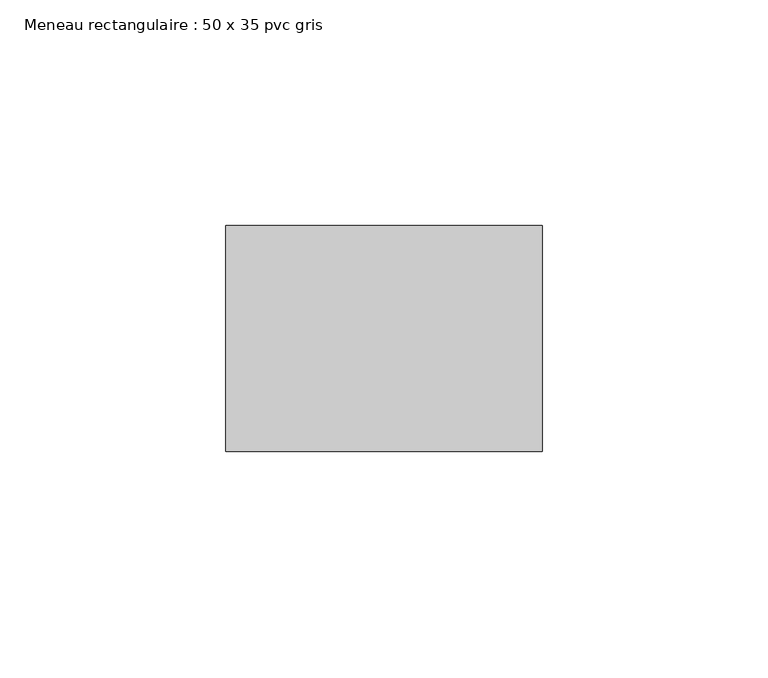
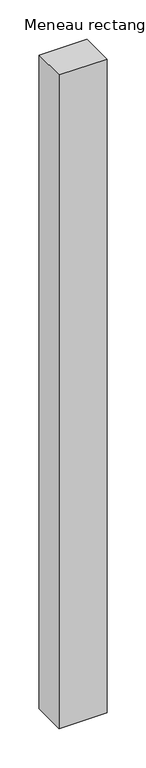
"""IFC4 building model written with IfcOpenShell, lengths in millimetres: member geometry, Meneau rectangulaire : 50 x 35 pvc gris."""

import ifcopenshell
import ifcopenshell.guid

model = None  # the IFC model being written
_history = None  # IfcOwnerHistory: only IFC2X3 demands one
_inside = {}  # id of a spatial element -> (the spatial element, [elements in it])
_under = {}  # id of a project, library or spatial element -> (it, [spatial elements below it])
_declared = {}  # id of a project -> (the project, [libraries it declares])
_typed = {}  # id of a type object -> (the type object, [elements of that type])
_made_of = {}  # id of a material, layer set ... -> (it, [elements and type objects made of it])


def new_model(schema):
    """Start an empty IFC model of exactly this schema.

    Asked for "IFC4X3", IfcOpenShell would pick the latest addendum, in which some entities
    have other attributes; the version numbers below select the first issue.
    IFC2X3 requires an IfcOwnerHistory on every rooted entity: one is made here for all.
    """
    global model, _history
    if schema == "IFC4X3":
        model = ifcopenshell.file(schema_version=(4, 3, 0, 0))
    else:
        model = ifcopenshell.file(schema=schema)
    _inside.clear()
    _under.clear()
    _declared.clear()
    _typed.clear()
    _made_of.clear()
    _history = None
    if model.schema == "IFC2X3":
        org = make("IfcOrganization", Name="unknown")
        user = make(
            "IfcPersonAndOrganization",
            ThePerson=make("IfcPerson", FamilyName="unknown"),
            TheOrganization=org,
        )
        app = make(
            "IfcApplication",
            ApplicationDeveloper=org,
            Version="unknown",
            ApplicationFullName="unknown",
            ApplicationIdentifier="unknown",
        )
        _history = make(
            "IfcOwnerHistory",
            OwningUser=user,
            OwningApplication=app,
            ChangeAction="ADDED",
            CreationDate=0,
        )
    return model


def make(cls, **values):
    """One entity of the class cls with the attributes given. An attribute that is None is left unset."""
    return model.create_entity(
        cls, **{name: value for name, value in values.items() if value is not None}
    )


def rooted(cls, **values):
    """An entity with a GlobalId (a new one), such as an element, a storey or a relation."""
    return make(cls, GlobalId=ifcopenshell.guid.new(), OwnerHistory=_history, **values)


def si_unit(unit_type, name, prefix=None):
    """IfcSIUnit, for example si_unit("LENGTHUNIT", "METRE", prefix="MILLI")."""
    return make("IfcSIUnit", UnitType=unit_type, Prefix=prefix, Name=name)


def assignment(units):
    """IfcUnitAssignment: the units of a project."""
    return None if units is None else make("IfcUnitAssignment", Units=units)


def point(xyz):
    """IfcCartesianPoint."""
    return None if xyz is None else make("IfcCartesianPoint", Coordinates=xyz)


def direction(xyz):
    """IfcDirection."""
    return None if xyz is None else make("IfcDirection", DirectionRatios=xyz)


def frame(location, z_axis=None, x_axis=None):
    """IfcAxis2Placement3D, a coordinate frame: its origin and axes. An axis left out is left unset."""
    return make(
        "IfcAxis2Placement3D",
        Location=point(location),
        Axis=direction(z_axis),
        RefDirection=direction(x_axis),
    )


def origin():
    """The frame at (0, 0, 0) with its axes left unset."""
    return frame((0.0, 0.0, 0.0))


def place(relative_to, where):
    """IfcLocalPlacement: puts the frame where relative to a parent placement (None: the world)."""
    return make(
        "IfcLocalPlacement", PlacementRelTo=relative_to, RelativePlacement=where
    )


def context(
    kind, dimensions, precision=None, world=None, true_north=None, identifier=None
):
    """IfcGeometricRepresentationContext, for example the 3D "Model" context."""
    return make(
        "IfcGeometricRepresentationContext",
        ContextIdentifier=identifier,
        ContextType=kind,
        CoordinateSpaceDimension=dimensions,
        Precision=precision,
        WorldCoordinateSystem=world,
        TrueNorth=true_north,
    )


def project(units=None, contexts=None):
    """IfcProject with its units and contexts."""
    return rooted(
        "IfcProject",
        Name="project",
        RepresentationContexts=contexts,
        UnitsInContext=assignment(units),
    )


def spatial(cls, under=None, at=None, **own):
    """A site, building, storey or space (cls), placed at a placement, below another one or the project."""
    s = rooted(cls, ObjectPlacement=at, **own)
    if under is not None:
        _under.setdefault(under.id(), (under, []))[1].append(s)
    return s


def polyline(points):
    """IfcPolyline through the points."""
    return make("IfcPolyline", Points=[point(p) for p in points])


def outline(outer, holes=None, kind="AREA"):
    """IfcArbitraryClosedProfileDef: a profile drawn as a closed curve; with holes, ...WithVoids."""
    if holes is None:
        return make("IfcArbitraryClosedProfileDef", ProfileType=kind, OuterCurve=outer)
    return make(
        "IfcArbitraryProfileDefWithVoids",
        ProfileType=kind,
        OuterCurve=outer,
        InnerCurves=holes,
    )


def extrude(swept, where, along, depth):
    """IfcExtrudedAreaSolid: the profile swept, set in the frame where, extruded along a direction by depth."""
    return make(
        "IfcExtrudedAreaSolid",
        SweptArea=swept,
        Position=where,
        ExtrudedDirection=direction(along),
        Depth=depth,
    )


def shape(context_of_items, identifier, shape_type, items):
    """IfcShapeRepresentation: the items that make up one representation, for example the "Body"."""
    return make(
        "IfcShapeRepresentation",
        ContextOfItems=context_of_items,
        RepresentationIdentifier=identifier,
        RepresentationType=shape_type,
        Items=items,
    )


def source(mapping_origin, context_of_items, identifier, shape_type, items):
    """IfcRepresentationMap: a shape defined once, which mapped items show again and again."""
    return make(
        "IfcRepresentationMap",
        MappingOrigin=mapping_origin,
        MappedRepresentation=shape(context_of_items, identifier, shape_type, items),
    )


def transform(
    local_origin,
    x_axis=None,
    y_axis=None,
    z_axis=None,
    scale=None,
    scale2=None,
    scale3=None,
    uniform=True,
):
    """IfcCartesianTransformationOperator3D, or its non-uniform kind. x_axis, y_axis, z_axis: its Axis1, 2, 3."""
    if uniform:
        return make(
            "IfcCartesianTransformationOperator3D",
            Axis1=direction(x_axis),
            Axis2=direction(y_axis),
            LocalOrigin=point(local_origin),
            Scale=scale,
            Axis3=direction(z_axis),
        )
    return make(
        "IfcCartesianTransformationOperator3DnonUniform",
        Axis1=direction(x_axis),
        Axis2=direction(y_axis),
        LocalOrigin=point(local_origin),
        Scale=scale,
        Axis3=direction(z_axis),
        Scale2=scale2,
        Scale3=scale3,
    )


def mapped(mapping_source, mapping_target):
    """IfcMappedItem: shows the shape of a source again, moved by a transform."""
    return make(
        "IfcMappedItem", MappingSource=mapping_source, MappingTarget=mapping_target
    )


def made_of(thing, what):
    """Note that an element or type object is made of a material, layer set ...; save() writes the relation."""
    if what is not None:
        _made_of.setdefault(what.id(), (what, []))[1].append(thing)
    return thing


def element(
    cls,
    number,
    at=None,
    inside=None,
    cuts=None,
    type_object=None,
    material=None,
    context=None,
    identifier="Body",
    shape_type=None,
    held_by="IfcProductDefinitionShape",
    body=None,
    shapes=None,
    **own,
):
    """One element of the class cls, such as IfcWall. Its Tag is "e" and its number.

    at: its placement. inside: the storey or other place that contains it. cuts: it is an
    opening in that element (IfcRelVoidsElement). A single representation is given by context,
    identifier, shape_type and body (its items); several are given by shapes. held_by: the class
    of the entity that holds the representations. save() writes the other relations.
    """
    e = rooted(cls, Tag="e%d" % number, ObjectPlacement=at, **own)
    if body is not None:
        shapes = [shape(context, identifier, shape_type, body)]
    if shapes is not None:
        e.Representation = make(held_by, Representations=shapes)
    if inside is not None:
        _inside.setdefault(inside.id(), (inside, []))[1].append(e)
    if cuts is not None:
        rooted(
            "IfcRelVoidsElement", RelatingBuildingElement=cuts, RelatedOpeningElement=e
        )
    if type_object is not None:
        _typed.setdefault(type_object.id(), (type_object, []))[1].append(e)
    return made_of(e, material)


def aggregate(whole, parts):
    """IfcRelAggregates: a whole, such as a stair, and the parts it consists of."""
    return rooted("IfcRelAggregates", RelatingObject=whole, RelatedObjects=parts)


def save(model, path):
    """Write the relations noted so far, then the file.

    IfcRelAggregates (storeys below a building ...), IfcRelContainedInSpatialStructure (elements
    in a storey), IfcRelDefinesByType, IfcRelAssociatesMaterial and IfcRelDeclares: one each for
    every whole, place, type object, material and project.
    """
    for whole, parts in _under.values():
        aggregate(whole, parts)
    for where, things in _inside.values():
        rooted(
            "IfcRelContainedInSpatialStructure",
            RelatedElements=things,
            RelatingStructure=where,
        )
    for kind, things in _typed.values():
        rooted("IfcRelDefinesByType", RelatedObjects=things, RelatingType=kind)
    for what, things in _made_of.values():
        rooted("IfcRelAssociatesMaterial", RelatedObjects=things, RelatingMaterial=what)
    for by, libraries in _declared.values():
        rooted("IfcRelDeclares", RelatingContext=by, RelatedDefinitions=libraries)
    model.write(path)


def meneau_rectangulaire_50_x_35_pvc_gris_ca48426c(model_context):
    return source(origin(), model_context, "Body", "SweptSolid", [
        extrude(outline(polyline([(0.0, 0.0), (0.0, -50.0), (-70.0, -50.0), (-70.0, 0.0), (0.0, 0.0)])), frame((0.0, 0.0, -1011.3980781), z_axis=(0.0, 0.0, 1.0), x_axis=(1.0, 0.0, 0.0)), (0.0, 0.0, 1.0), 1011.3980781),
    ])


if __name__ == "__main__":
    model = new_model("IFC4")
    model_context = context("Model", 3, world=origin())
    ifc_project = project(units=[si_unit("LENGTHUNIT", "METRE", prefix="MILLI")], contexts=[model_context])
    site = spatial("IfcSite", under=ifc_project)
    building = spatial("IfcBuilding", under=site)
    placement = place(None, origin())
    meneau_rectangulaire_50_x_35_pvc_gris_shape = meneau_rectangulaire_50_x_35_pvc_gris_ca48426c(model_context)
    element("IfcMember", 1, ObjectType="Meneau rectangulaire : 50 x 35 pvc gris", at=placement, inside=building, context=model_context, shape_type="MappedRepresentation", body=[
        mapped(meneau_rectangulaire_50_x_35_pvc_gris_shape, transform((0.0, 0.0, 0.0), x_axis=(1.0, 0.0, 0.0), y_axis=(0.0, 1.0, 0.0), z_axis=(0.0, 0.0, 1.0))),
    ])
    save(model, "model.ifc")
